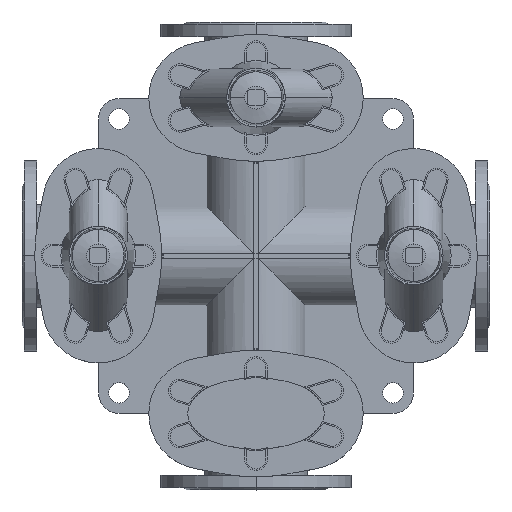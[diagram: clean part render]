
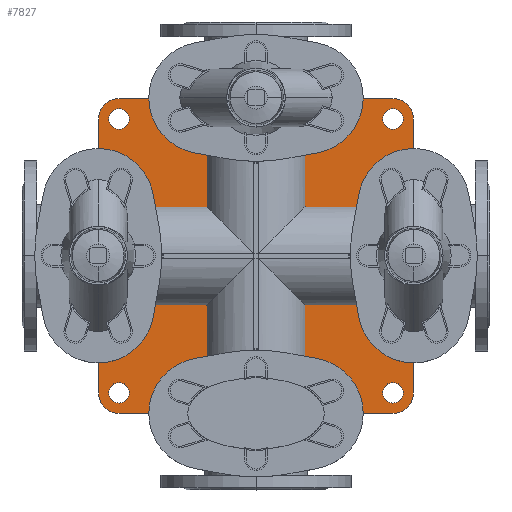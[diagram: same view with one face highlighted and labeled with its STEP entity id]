
A CAD part, top view. The second image highlights one B-rep face of the part: STEP entity #7827.
In plain terms, the highlighted planar face has unit normal (0, 0, 1).
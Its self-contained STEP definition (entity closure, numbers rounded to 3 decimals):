
#7827=ADVANCED_FACE('',(#14425,#14426,#14427,#14428,#14429),#14430,.F.);
#14425=FACE_BOUND('',#21590,.T.);
#14426=FACE_BOUND('',#21591,.T.);
#14427=FACE_BOUND('',#21592,.T.);
#14428=FACE_BOUND('',#21593,.T.);
#14429=FACE_OUTER_BOUND('',#21594,.T.);
#14430=PLANE('',#21595);
#21590=EDGE_LOOP('',(#37676,#37677));
#21591=EDGE_LOOP('',(#37678,#37679));
#21592=EDGE_LOOP('',(#37680,#37681));
#21593=EDGE_LOOP('',(#37682,#37683));
#21594=EDGE_LOOP('',(#37684,#37685,#37686,#37687,#37688,#37689,#37690,#37691));
#21595=AXIS2_PLACEMENT_3D('',#37692,#37693,#37694);
#37676=ORIENTED_EDGE('',*,*,#42118,.T.);
#37677=ORIENTED_EDGE('',*,*,#44189,.T.);
#37678=ORIENTED_EDGE('',*,*,#42183,.T.);
#37679=ORIENTED_EDGE('',*,*,#40265,.T.);
#37680=ORIENTED_EDGE('',*,*,#42921,.T.);
#37681=ORIENTED_EDGE('',*,*,#43767,.T.);
#37682=ORIENTED_EDGE('',*,*,#39688,.T.);
#37683=ORIENTED_EDGE('',*,*,#38654,.T.);
#37684=ORIENTED_EDGE('',*,*,#40187,.F.);
#37685=ORIENTED_EDGE('',*,*,#41355,.F.);
#37686=ORIENTED_EDGE('',*,*,#40000,.F.);
#37687=ORIENTED_EDGE('',*,*,#39349,.F.);
#37688=ORIENTED_EDGE('',*,*,#39973,.F.);
#37689=ORIENTED_EDGE('',*,*,#40209,.F.);
#37690=ORIENTED_EDGE('',*,*,#41265,.F.);
#37691=ORIENTED_EDGE('',*,*,#41339,.F.);
#37692=CARTESIAN_POINT('',(307.5,0.0,20.0));
#37693=DIRECTION('',(0.0,0.0,-1.0));
#37694=DIRECTION('',(-1.0,0.0,0.0));
#38654=EDGE_CURVE('',#45643,#45640,#45644,.T.);
#39349=EDGE_CURVE('',#46800,#46801,#46802,.T.);
#39688=EDGE_CURVE('',#45640,#45643,#47355,.T.);
#39973=EDGE_CURVE('',#47809,#46800,#47810,.T.);
#40000=EDGE_CURVE('',#46801,#47853,#47854,.T.);
#40187=EDGE_CURVE('',#48148,#48149,#48150,.T.);
#40209=EDGE_CURVE('',#48185,#47809,#48186,.T.);
#40265=EDGE_CURVE('',#48271,#48268,#48272,.T.);
#41265=EDGE_CURVE('',#49795,#48185,#49796,.T.);
#41339=EDGE_CURVE('',#48149,#49795,#49904,.T.);
#41355=EDGE_CURVE('',#47853,#48148,#49928,.T.);
#42118=EDGE_CURVE('',#50981,#50986,#50988,.T.);
#42183=EDGE_CURVE('',#48268,#48271,#51066,.T.);
#42921=EDGE_CURVE('',#52016,#52018,#52020,.T.);
#43767=EDGE_CURVE('',#52018,#52016,#52994,.T.);
#44189=EDGE_CURVE('',#50986,#50981,#53435,.T.);
#45640=VERTEX_POINT('',#55283);
#45643=VERTEX_POINT('',#55287);
#45644=CIRCLE('',#55288,13.5);
#46800=VERTEX_POINT('',#56779);
#46801=VERTEX_POINT('',#56780);
#46802=CIRCLE('',#56781,27.0);
#47355=CIRCLE('',#57472,13.5);
#47809=VERTEX_POINT('',#58059);
#47810=LINE('',#58060,#58061);
#47853=VERTEX_POINT('',#58112);
#47854=LINE('',#58113,#58114);
#48148=VERTEX_POINT('',#58479);
#48149=VERTEX_POINT('',#58480);
#48150=LINE('',#58481,#58482);
#48185=VERTEX_POINT('',#58527);
#48186=CIRCLE('',#58528,27.0);
#48268=VERTEX_POINT('',#58637);
#48271=VERTEX_POINT('',#58641);
#48272=CIRCLE('',#58642,13.5);
#49795=VERTEX_POINT('',#60616);
#49796=LINE('',#60617,#60618);
#49904=CIRCLE('',#60765,27.0);
#49928=CIRCLE('',#60795,27.0);
#50981=VERTEX_POINT('',#62177);
#50986=VERTEX_POINT('',#62183);
#50988=CIRCLE('',#62186,13.5);
#51066=CIRCLE('',#62285,13.5);
#52016=VERTEX_POINT('',#63534);
#52018=VERTEX_POINT('',#63537);
#52020=CIRCLE('',#63540,13.5);
#52994=CIRCLE('',#64767,13.5);
#53435=CIRCLE('',#65285,13.5);
#55283=CARTESIAN_POINT('',(501.0,180.0,20.0));
#55287=CARTESIAN_POINT('',(474.0,180.0,20.0));
#55288=AXIS2_PLACEMENT_3D('',#66464,#66465,#66466);
#56779=CARTESIAN_POINT('',(487.5,207.0,20.0));
#56780=CARTESIAN_POINT('',(514.5,180.0,20.0));
#56781=AXIS2_PLACEMENT_3D('',#67402,#67403,#67404);
#57472=AXIS2_PLACEMENT_3D('',#67924,#67925,#67926);
#58059=CARTESIAN_POINT('',(127.5,207.0,20.0));
#58060=CARTESIAN_POINT('',(127.5,207.0,20.0));
#58061=VECTOR('',#68306,1.0);
#58112=CARTESIAN_POINT('',(514.5,-180.0,20.0));
#58113=CARTESIAN_POINT('',(514.5,180.0,20.0));
#58114=VECTOR('',#68354,1.0);
#58479=CARTESIAN_POINT('',(487.5,-207.0,20.0));
#58480=CARTESIAN_POINT('',(127.5,-207.0,20.0));
#58481=CARTESIAN_POINT('',(487.5,-207.0,20.0));
#58482=VECTOR('',#68633,1.0);
#58527=CARTESIAN_POINT('',(100.5,180.0,20.0));
#58528=AXIS2_PLACEMENT_3D('',#68662,#68663,#68664);
#58637=CARTESIAN_POINT('',(141.0,-180.0,20.0));
#58641=CARTESIAN_POINT('',(114.0,-180.0,20.0));
#58642=AXIS2_PLACEMENT_3D('',#68735,#68736,#68737);
#60616=CARTESIAN_POINT('',(100.5,-180.0,20.0));
#60617=CARTESIAN_POINT('',(100.5,-180.0,20.0));
#60618=VECTOR('',#70068,1.0);
#60765=AXIS2_PLACEMENT_3D('',#70150,#70151,#70152);
#60795=AXIS2_PLACEMENT_3D('',#70174,#70175,#70176);
#62177=CARTESIAN_POINT('',(141.0,180.0,20.0));
#62183=CARTESIAN_POINT('',(114.0,180.0,20.0));
#62186=AXIS2_PLACEMENT_3D('',#71102,#71103,#71104);
#62285=AXIS2_PLACEMENT_3D('',#71183,#71184,#71185);
#63534=CARTESIAN_POINT('',(501.0,-180.0,20.0));
#63537=CARTESIAN_POINT('',(474.0,-180.0,20.0));
#63540=AXIS2_PLACEMENT_3D('',#72012,#72013,#72014);
#64767=AXIS2_PLACEMENT_3D('',#72862,#72863,#72864);
#65285=AXIS2_PLACEMENT_3D('',#73080,#73081,#73082);
#66464=CARTESIAN_POINT('',(487.5,180.0,20.0));
#66465=DIRECTION('',(0.0,0.0,-1.0));
#66466=DIRECTION('',(1.0,0.0,0.0));
#67402=CARTESIAN_POINT('',(487.5,180.0,20.0));
#67403=DIRECTION('',(0.0,0.0,-1.0));
#67404=DIRECTION('',(-1.0,0.0,0.0));
#67924=CARTESIAN_POINT('',(487.5,180.0,20.0));
#67925=DIRECTION('',(0.0,0.0,-1.0));
#67926=DIRECTION('',(1.0,0.0,0.0));
#68306=DIRECTION('',(1.0,0.0,0.0));
#68354=DIRECTION('',(0.0,-1.0,0.0));
#68633=DIRECTION('',(-1.0,0.0,0.0));
#68662=CARTESIAN_POINT('',(127.5,180.0,20.0));
#68663=DIRECTION('',(0.0,0.0,-1.0));
#68664=DIRECTION('',(-1.0,0.0,0.0));
#68735=CARTESIAN_POINT('',(127.5,-180.0,20.0));
#68736=DIRECTION('',(0.0,0.0,-1.0));
#68737=DIRECTION('',(1.0,0.0,0.0));
#70068=DIRECTION('',(0.0,1.0,0.0));
#70150=CARTESIAN_POINT('',(127.5,-180.0,20.0));
#70151=DIRECTION('',(0.0,0.0,-1.0));
#70152=DIRECTION('',(-1.0,0.0,0.0));
#70174=CARTESIAN_POINT('',(487.5,-180.0,20.0));
#70175=DIRECTION('',(0.0,0.0,-1.0));
#70176=DIRECTION('',(-1.0,0.0,0.0));
#71102=CARTESIAN_POINT('',(127.5,180.0,20.0));
#71103=DIRECTION('',(0.0,0.0,-1.0));
#71104=DIRECTION('',(1.0,0.0,0.0));
#71183=CARTESIAN_POINT('',(127.5,-180.0,20.0));
#71184=DIRECTION('',(0.0,0.0,-1.0));
#71185=DIRECTION('',(1.0,0.0,0.0));
#72012=CARTESIAN_POINT('',(487.5,-180.0,20.0));
#72013=DIRECTION('',(0.0,0.0,-1.0));
#72014=DIRECTION('',(1.0,0.0,0.0));
#72862=CARTESIAN_POINT('',(487.5,-180.0,20.0));
#72863=DIRECTION('',(0.0,0.0,-1.0));
#72864=DIRECTION('',(1.0,0.0,0.0));
#73080=CARTESIAN_POINT('',(127.5,180.0,20.0));
#73081=DIRECTION('',(0.0,0.0,-1.0));
#73082=DIRECTION('',(1.0,0.0,0.0));
